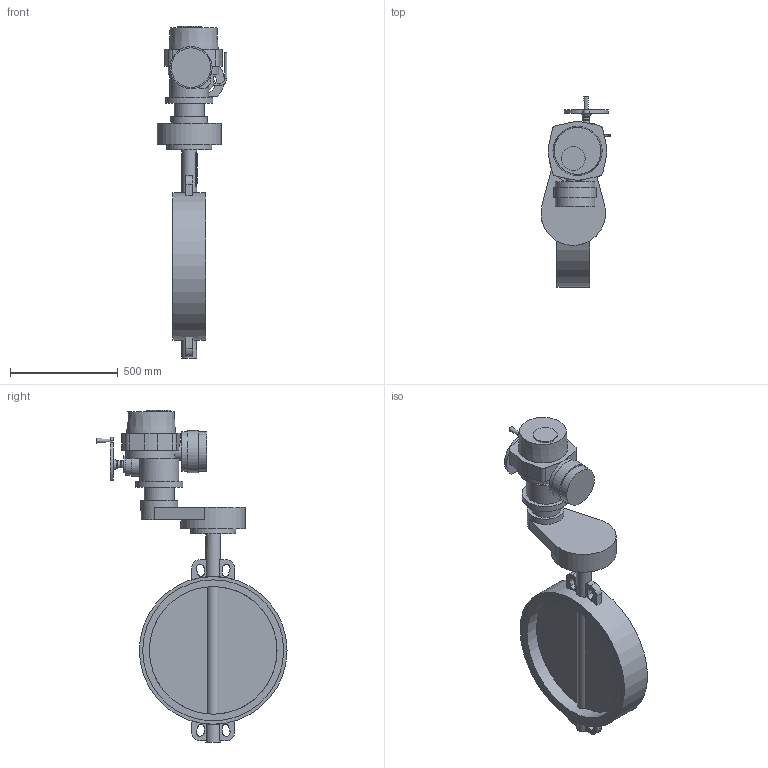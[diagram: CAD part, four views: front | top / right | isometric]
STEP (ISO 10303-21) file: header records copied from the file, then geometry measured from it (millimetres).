
FILE_DESCRIPTION(('STEP AP203'), '1');
FILE_NAME('Çàòâîð 017W.Z(ñòàëü) DN600+ÝÏ QT.A500', '', ('UNSPECIFIED'), ('UNSPECIFIED'), 'ASCON STEP Converter 1.6', 'ASCON Math Kernel', '');
FILE_SCHEMA(('CONFIG_CONTROL_DESIGN'));
Length unit declared in the file: millimetre
Bounding box: 324.45 x 881.5 x 1540 mm (x, y, z)
Volume: 54625425 mm3; surface area: 2468031 mm2
Topology: 1 solids, 1 shells, 885 faces, 2475 edges, 1642 vertices
Faces by surface type: cylinder 632, plane 249, cone 3, torus 1
Full cylindrical faces by diameter (mm): 10 x2, 14 x12, 16 x1, 22 x4, 32 x2, 35 x1, 50.7 x1, 60 x1, 68 x2, 80 x2, 100 x1, 110 x1, 130 x1, 140 x1, 170 x1, 180 x1, 183 x2, 196 x1, 210 x1, 220 x1, 300 x1, 592.5 x2, 654 x2, 685 x1
Entity records: 37368 total; most frequent: CARTESIAN_POINT 6332, DIRECTION 5502, ORIENTED_EDGE 4852, EDGE_CURVE 2426, AXIS2_PLACEMENT_3D 2214, VERTEX_POINT 1642, CIRCLE 1328, LINE 1074
